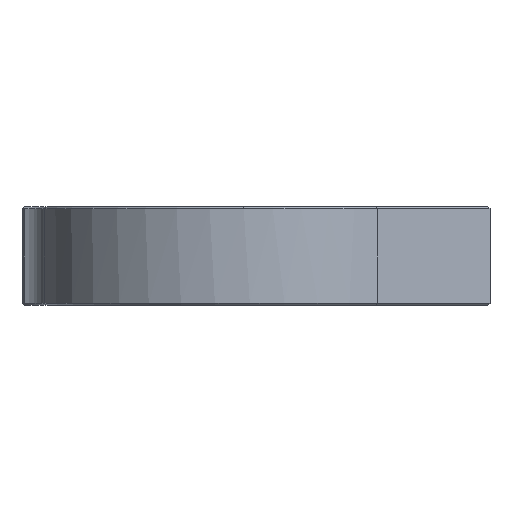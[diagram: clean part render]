
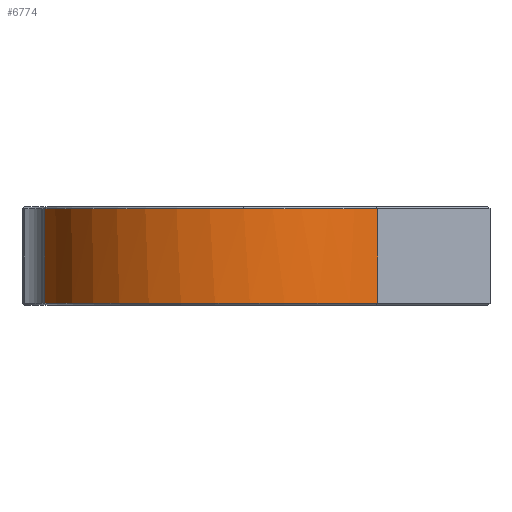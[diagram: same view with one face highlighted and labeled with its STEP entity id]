
A CAD part, left-side view. The second image highlights one B-rep face of the part: STEP entity #6774.
In plain terms, the highlighted cylindrical face has radius 29 mm (diameter 58 mm), a partial arc.
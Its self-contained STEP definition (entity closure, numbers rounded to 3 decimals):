
#170 = CARTESIAN_POINT ( 'NONE',  ( 0., 0., -0.3 ) ) ;
#188 = CIRCLE ( 'NONE', #8725, 29. ) ;
#653 = DIRECTION ( 'NONE',  ( 0., 0., -1. ) ) ;
#731 = DIRECTION ( 'NONE',  ( 0., 0., 1. ) ) ;
#1542 = CARTESIAN_POINT ( 'NONE',  ( -6.597, 28.24, -13.7 ) ) ;
#1886 = VECTOR ( 'NONE', #2526, 1000. ) ;
#2100 = EDGE_CURVE ( 'NONE', #3874, #10860, #10358, .T. ) ;
#2471 = CARTESIAN_POINT ( 'NONE',  ( 0., 0., -13.7 ) ) ;
#2526 = DIRECTION ( 'NONE',  ( 0., 0., 1. ) ) ;
#2904 = ORIENTED_EDGE ( 'NONE', *, *, #5512, .T. ) ;
#3296 = EDGE_LOOP ( 'NONE', ( #10618, #9044, #3510, #10042, #2904 ) ) ;
#3351 = CARTESIAN_POINT ( 'NONE',  ( -21.886, -19.026, -14. ) ) ;
#3398 = AXIS2_PLACEMENT_3D ( 'NONE', #170, #5941, #6783 ) ;
#3510 = ORIENTED_EDGE ( 'NONE', *, *, #4259, .T. ) ;
#3666 = CARTESIAN_POINT ( 'NONE',  ( -21.886, -19.026, -0.3 ) ) ;
#3874 = VERTEX_POINT ( 'NONE', #3666 ) ;
#4117 = CARTESIAN_POINT ( 'NONE',  ( 0., 0., -14. ) ) ;
#4243 = VERTEX_POINT ( 'NONE', #9406 ) ;
#4259 = EDGE_CURVE ( 'NONE', #10860, #5420, #8138, .T. ) ;
#5159 = FACE_OUTER_BOUND ( 'NONE', #3296, .T. ) ;
#5292 = VERTEX_POINT ( 'NONE', #1542 ) ;
#5420 = VERTEX_POINT ( 'NONE', #6417 ) ;
#5455 = VECTOR ( 'NONE', #6077, 1000. ) ;
#5512 = EDGE_CURVE ( 'NONE', #5292, #4243, #188, .T. ) ;
#5941 = DIRECTION ( 'NONE',  ( 0., 0., -1. ) ) ;
#6077 = DIRECTION ( 'NONE',  ( 0., 0., -1. ) ) ;
#6174 = AXIS2_PLACEMENT_3D ( 'NONE', #4117, #731, #6650 ) ;
#6177 = AXIS2_PLACEMENT_3D ( 'NONE', #9235, #653, #6577 ) ;
#6315 = EDGE_CURVE ( 'NONE', #4243, #3874, #6776, .T. ) ;
#6417 = CARTESIAN_POINT ( 'NONE',  ( -6.597, 28.24, -0.3 ) ) ;
#6577 = DIRECTION ( 'NONE',  ( -1., 0., 0. ) ) ;
#6650 = DIRECTION ( 'NONE',  ( 1., 0., 0. ) ) ;
#6774 = ADVANCED_FACE ( 'NONE', ( #5159 ), #7002, .T. ) ;
#6776 = LINE ( 'NONE', #3351, #1886 ) ;
#6783 = DIRECTION ( 'NONE',  ( -1., 0., 0. ) ) ;
#7002 = CYLINDRICAL_SURFACE ( 'NONE', #6174, 29. ) ;
#8130 = EDGE_CURVE ( 'NONE', #5420, #5292, #8540, .T. ) ;
#8138 = CIRCLE ( 'NONE', #3398, 29. ) ;
#8540 = LINE ( 'NONE', #10327, #5455 ) ;
#8725 = AXIS2_PLACEMENT_3D ( 'NONE', #2471, #9188, #9225 ) ;
#9044 = ORIENTED_EDGE ( 'NONE', *, *, #2100, .T. ) ;
#9188 = DIRECTION ( 'NONE',  ( 0., 0., 1. ) ) ;
#9225 = DIRECTION ( 'NONE',  ( -1., 0., 0. ) ) ;
#9235 = CARTESIAN_POINT ( 'NONE',  ( 0., 0., -0.3 ) ) ;
#9406 = CARTESIAN_POINT ( 'NONE',  ( -21.886, -19.026, -13.7 ) ) ;
#9734 = CARTESIAN_POINT ( 'NONE',  ( -29., 0., -0.3 ) ) ;
#10042 = ORIENTED_EDGE ( 'NONE', *, *, #8130, .T. ) ;
#10327 = CARTESIAN_POINT ( 'NONE',  ( -6.597, 28.24, -14. ) ) ;
#10358 = CIRCLE ( 'NONE', #6177, 29. ) ;
#10618 = ORIENTED_EDGE ( 'NONE', *, *, #6315, .T. ) ;
#10860 = VERTEX_POINT ( 'NONE', #9734 ) ;
